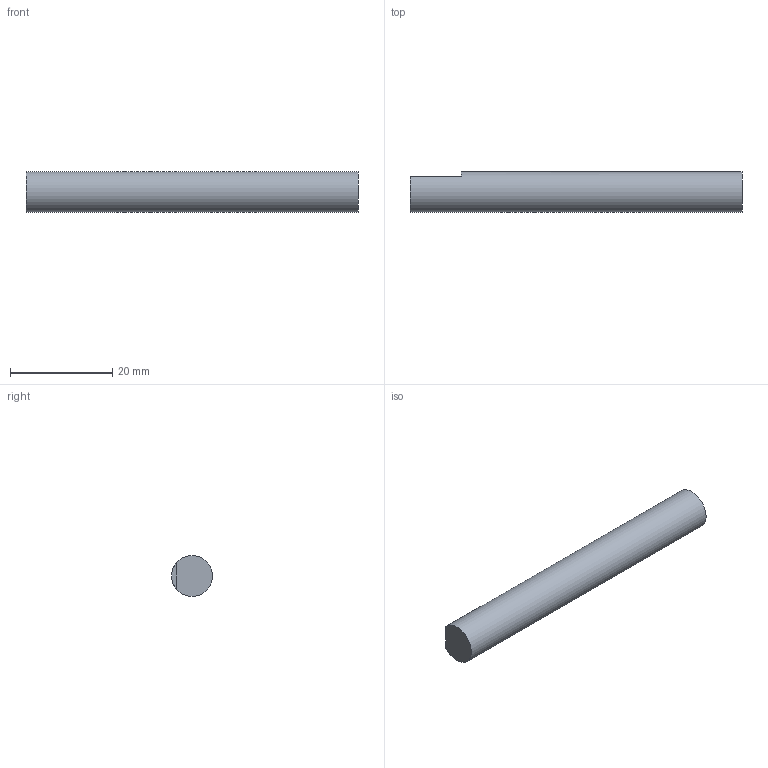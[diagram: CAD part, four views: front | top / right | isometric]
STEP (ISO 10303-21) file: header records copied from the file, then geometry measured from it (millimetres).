
FILE_DESCRIPTION(('Open CASCADE Model'),'2;1');
FILE_NAME('Open CASCADE Shape Model','2026-10-06T19:56:11',('Author'),( 'Open CASCADE'),'Open CASCADE STEP processor 7.9','Open CASCADE 7.9' ,'Unknown');
FILE_SCHEMA(('AUTOMOTIVE_DESIGN { 1 0 10303 214 1 1 1 1 }'));
Length unit declared in the file: millimetre
Products named in the file (1): Open CASCADE STEP translator 7.9 50
Bounding box: 65 x 8 x 8 mm (x, y, z)
Volume: 3233.6 mm3; surface area: 1729.6 mm2
Topology: 1 solids, 1 shells, 5 faces, 9 edges, 6 vertices
Faces by surface type: plane 4, cylinder 1
Full cylindrical faces by diameter (mm): 8 x1
Entity records: 254 total; most frequent: CARTESIAN_POINT 57, DIRECTION 35, ORIENTED_EDGE 18, PCURVE 18, DEFINITIONAL_REPRESENTATION 18, LINE 13, VECTOR 13, AXIS2_PLACEMENT_3D 10
